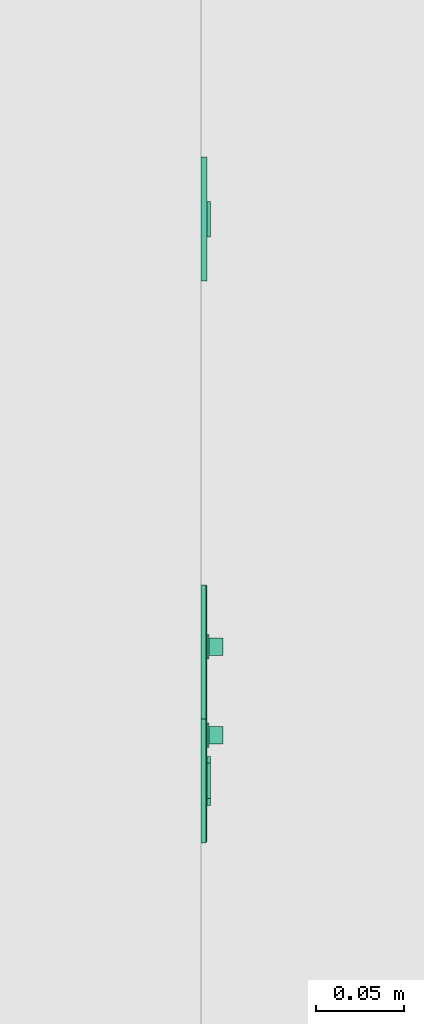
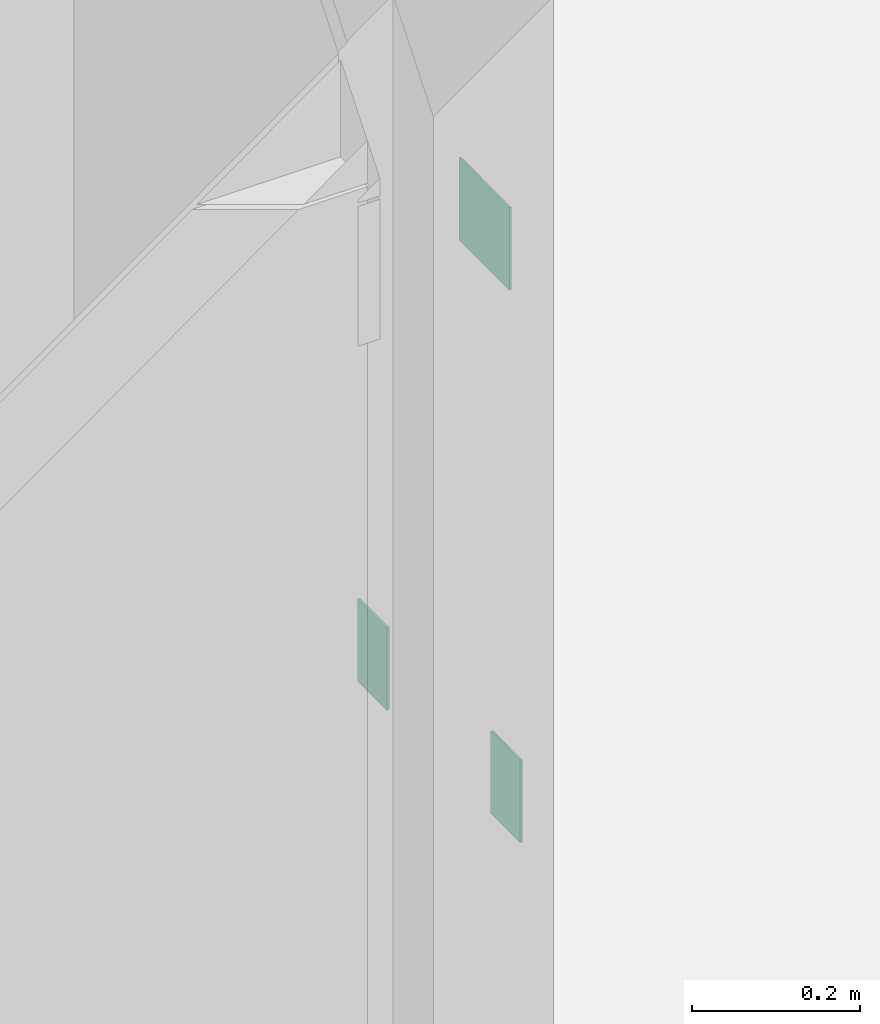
# One storey, part 27 of 103: 3 flow controllers.
"""IFC2X3 building model written with IfcOpenShell, lengths in inches."""

from ifc_helpers import new_model, entity, si_unit, converted_unit, derived_unit, money_unit, direction, frame, origin_with_axes, place, context, subcontext, project, spatial, faceted_brep, source, transform, mapped, type_object, element, save


model = new_model("IFC2X3")

# Units and contexts
model_context = context("Model", 3, precision=0.00039370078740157, world=origin_with_axes(), true_north=direction((0.0, 1.0)))
plan_context = context("Plan", 3, precision=0.00039370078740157, world=origin_with_axes(), true_north=direction((0.0, 1.0)))
body_context = subcontext(model_context, "Body", "Model", "MODEL_VIEW")
ifc_project = project(units=[converted_unit("LENGTHUNIT", "INCH", entity("IfcPositiveLengthMeasure", 0.0254), si_unit("LENGTHUNIT", "METRE"), dimensions=[1, 0, 0, 0, 0, 0, 0]), converted_unit("AREAUNIT", "SQUARE_FOOT", entity("IfcPositiveLengthMeasure", 0.09290304), si_unit("AREAUNIT", "SQUARE_METRE"), dimensions=[2, 0, 0, 0, 0, 0, 0]), si_unit("PLANEANGLEUNIT", "RADIAN"), si_unit("SOLIDANGLEUNIT", "STERADIAN"), money_unit("USD"), converted_unit("TIMEUNIT", "Year", entity("IfcTimeMeasure", 31557600.0), si_unit("TIMEUNIT", "SECOND"), dimensions=[0, 0, 1, 0, 0, 0, 0]), si_unit("MASSUNIT", "GRAM", prefix="KILO"), si_unit("THERMODYNAMICTEMPERATUREUNIT", "DEGREE_CELSIUS"), si_unit("LUMINOUSINTENSITYUNIT", "LUMEN"), si_unit("ENERGYUNIT", "JOULE", prefix="MEGA"), derived_unit("SPECIFICHEATCAPACITYUNIT", [(si_unit("ENERGYUNIT", "JOULE"), 1), (si_unit("MASSUNIT", "GRAM", prefix="KILO"), -1), (si_unit("THERMODYNAMICTEMPERATUREUNIT", "KELVIN"), -1)])], contexts=[model_context, plan_context])

# Site, building, storey
site_placement = place(None, origin_with_axes())
site = spatial("IfcSite", under=ifc_project, at=site_placement, Name="Site", CompositionType="ELEMENT")
building_placement = place(site_placement, origin_with_axes())
building = spatial("IfcBuilding", under=site, at=building_placement, Name="Building", CompositionType="ELEMENT")
storey_placement = place(building_placement, frame((0.0, 0.0, 127.9999999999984), z_axis=(0.0, 0.0, 1.0), x_axis=(1.0, 0.0, 0.0)))
storey = spatial("IfcBuildingStorey", under=building, at=storey_placement, Name="Second Floor", CompositionType="ELEMENT", Elevation=128.0)

# Flow controllers
switching_device_type_1 = type_object("IfcSwitchingDeviceType", Name="Outlet 1 US", PredefinedType="NOTDEFINED")
shared_shape_1 = source(origin_with_axes(), body_context, "Body", "Brep", [
    faceted_brep([(0.39370078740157, -0.03444881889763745, -1.18110236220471), (0.5436477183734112, -0.03444881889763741, -0.7086614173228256), (0.5436477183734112, -0.2165354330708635, -0.7086614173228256), (0.39370078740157, -0.2165354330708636, -1.18110236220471), (-0.3937007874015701, -0.03444881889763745, -1.181102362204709), (-0.543647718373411, -0.03444881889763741, -0.7086614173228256), (-0.39370078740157, -0.03444881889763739, -0.2362204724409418), (0.3937007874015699, -0.03444881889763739, -0.2362204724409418), (-0.196850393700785, -0.03444881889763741, -0.7086614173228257), (-0.196850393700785, -0.0344488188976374, -0.4724409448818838), (-0.275590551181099, -0.0344488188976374, -0.4724409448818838), (-0.275590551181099, -0.03444881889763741, -0.7086614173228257), (0.196850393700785, -0.03444881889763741, -0.7086614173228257), (0.275590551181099, -0.03444881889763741, -0.7086614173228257), (0.275590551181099, -0.0344488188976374, -0.4724409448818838), (0.196850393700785, -0.0344488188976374, -0.4724409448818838), (-0.078740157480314, -0.03444881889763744, -1.102362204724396), (0.078740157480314, -0.03444881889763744, -1.102362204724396), (0.078740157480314, -0.03444881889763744, -1.023622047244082), (0.06819097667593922, -0.03444881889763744, -0.9842519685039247), (0.03937007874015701, -0.03444881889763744, -0.9554310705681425), (0.0, -0.03444881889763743, -0.9448818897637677), (-0.03937007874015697, -0.03444881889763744, -0.9554310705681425), (-0.06819097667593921, -0.03444881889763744, -0.9842519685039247), (-0.078740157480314, -0.03444881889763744, -1.023622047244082), (0.3937007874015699, -0.2165354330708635, -0.2362204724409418), (-0.39370078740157, -0.2165354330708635, -0.2362204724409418), (-0.543647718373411, -0.2165354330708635, -0.7086614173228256), (-0.3937007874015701, -0.2165354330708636, -1.181102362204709), (-0.196850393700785, -0.2165354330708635, -0.7086614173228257), (-0.275590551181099, -0.2165354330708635, -0.7086614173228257), (-0.275590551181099, -0.2165354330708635, -0.4724409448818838), (-0.196850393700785, -0.2165354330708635, -0.4724409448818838), (0.196850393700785, -0.2165354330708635, -0.7086614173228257), (0.196850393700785, -0.2165354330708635, -0.4724409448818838), (0.275590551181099, -0.2165354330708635, -0.4724409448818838), (0.275590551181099, -0.2165354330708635, -0.7086614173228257), (-0.078740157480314, -0.2165354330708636, -1.102362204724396), (-0.078740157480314, -0.2165354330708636, -1.023622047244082), (-0.06819097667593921, -0.2165354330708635, -0.9842519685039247), (-0.03937007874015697, -0.2165354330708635, -0.9554310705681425), (0.0, -0.2165354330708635, -0.9448818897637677), (0.03937007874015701, -0.2165354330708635, -0.9554310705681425), (0.06819097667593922, -0.2165354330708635, -0.9842519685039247), (0.078740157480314, -0.2165354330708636, -1.023622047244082), (0.078740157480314, -0.2165354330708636, -1.102362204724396)], [[[0, 1, 2, 3]], [[0, 4, 5, 6, 7, 1], [8, 9, 10, 11], [12, 13, 14, 15], [16, 17, 18, 19, 20, 21, 22, 23, 24]], [[1, 7, 25, 2]], [[3, 2, 25, 26, 27, 28], [29, 30, 31, 32], [33, 34, 35, 36], [37, 38, 39, 40, 41, 42, 43, 44, 45]], [[4, 0, 3, 28]], [[5, 4, 28, 27]], [[6, 5, 27, 26]], [[7, 6, 26, 25]], [[9, 8, 29, 32]], [[10, 9, 32, 31]], [[11, 10, 31, 30]], [[8, 11, 30, 29]], [[13, 12, 33, 36]], [[14, 13, 36, 35]], [[15, 14, 35, 34]], [[12, 15, 34, 33]], [[17, 16, 37, 45]], [[18, 17, 45, 44]], [[19, 18, 44, 43]], [[20, 19, 43, 42]], [[21, 20, 42, 41]], [[22, 21, 41, 40]], [[23, 22, 40, 39]], [[24, 23, 39, 38]], [[16, 24, 38, 37]]]),
    faceted_brep([(0.39370078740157, -0.03444881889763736, 0.2362204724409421), (0.5436477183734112, -0.03444881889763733, 0.7086614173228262), (0.5436477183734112, -0.2165354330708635, 0.7086614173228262), (0.39370078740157, -0.2165354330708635, 0.2362204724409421), (-0.3937007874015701, -0.03444881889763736, 0.2362204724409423), (-0.543647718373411, -0.03444881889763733, 0.7086614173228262), (-0.39370078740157, -0.0344488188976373, 1.18110236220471), (0.3937007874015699, -0.0344488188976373, 1.18110236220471), (-0.196850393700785, -0.03444881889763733, 0.7086614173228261), (-0.196850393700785, -0.03444881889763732, 0.944881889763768), (-0.275590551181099, -0.03444881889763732, 0.944881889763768), (-0.275590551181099, -0.03444881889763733, 0.7086614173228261), (0.196850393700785, -0.03444881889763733, 0.7086614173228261), (0.275590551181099, -0.03444881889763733, 0.7086614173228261), (0.275590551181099, -0.03444881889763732, 0.944881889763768), (0.196850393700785, -0.03444881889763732, 0.944881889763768), (-0.078740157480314, -0.03444881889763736, 0.3149606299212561), (0.078740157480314, -0.03444881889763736, 0.3149606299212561), (0.078740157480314, -0.03444881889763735, 0.3937007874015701), (0.06819097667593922, -0.03444881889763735, 0.4330708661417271), (0.03937007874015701, -0.03444881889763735, 0.4618917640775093), (0.0, -0.03444881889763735, 0.472440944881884), (-0.03937007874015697, -0.03444881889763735, 0.4618917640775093), (-0.06819097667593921, -0.03444881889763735, 0.4330708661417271), (-0.078740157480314, -0.03444881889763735, 0.3937007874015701), (0.3937007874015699, -0.2165354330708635, 1.18110236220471), (-0.39370078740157, -0.2165354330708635, 1.18110236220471), (-0.543647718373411, -0.2165354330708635, 0.7086614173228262), (-0.3937007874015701, -0.2165354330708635, 0.2362204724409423), (-0.196850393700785, -0.2165354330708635, 0.7086614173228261), (-0.275590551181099, -0.2165354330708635, 0.7086614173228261), (-0.275590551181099, -0.2165354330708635, 0.944881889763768), (-0.196850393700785, -0.2165354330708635, 0.944881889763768), (0.196850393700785, -0.2165354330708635, 0.7086614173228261), (0.196850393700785, -0.2165354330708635, 0.944881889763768), (0.275590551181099, -0.2165354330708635, 0.944881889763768), (0.275590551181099, -0.2165354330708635, 0.7086614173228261), (-0.078740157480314, -0.2165354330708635, 0.3149606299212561), (-0.078740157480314, -0.2165354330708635, 0.3937007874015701), (-0.06819097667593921, -0.2165354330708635, 0.4330708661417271), (-0.03937007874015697, -0.2165354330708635, 0.4618917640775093), (0.0, -0.2165354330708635, 0.472440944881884), (0.03937007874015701, -0.2165354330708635, 0.4618917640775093), (0.06819097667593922, -0.2165354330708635, 0.4330708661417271), (0.078740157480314, -0.2165354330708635, 0.3937007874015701), (0.078740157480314, -0.2165354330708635, 0.3149606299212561)], [[[0, 1, 2, 3]], [[0, 4, 5, 6, 7, 1], [8, 9, 10, 11], [12, 13, 14, 15], [16, 17, 18, 19, 20, 21, 22, 23, 24]], [[1, 7, 25, 2]], [[3, 2, 25, 26, 27, 28], [29, 30, 31, 32], [33, 34, 35, 36], [37, 38, 39, 40, 41, 42, 43, 44, 45]], [[4, 0, 3, 28]], [[5, 4, 28, 27]], [[6, 5, 27, 26]], [[7, 6, 26, 25]], [[9, 8, 29, 32]], [[10, 9, 32, 31]], [[11, 10, 31, 30]], [[8, 11, 30, 29]], [[13, 12, 33, 36]], [[14, 13, 36, 35]], [[15, 14, 35, 34]], [[12, 15, 34, 33]], [[17, 16, 37, 45]], [[18, 17, 45, 44]], [[19, 18, 44, 43]], [[20, 19, 43, 42]], [[21, 20, 42, 41]], [[22, 21, 41, 40]], [[23, 22, 40, 39]], [[24, 23, 39, 38]], [[16, 24, 38, 37]]]),
    faceted_brep([(-1.343503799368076, -0.1377952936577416, -2.327755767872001), (1.343503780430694, -0.1377952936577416, -2.327755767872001), (1.343503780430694, -0.1377952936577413, 2.327755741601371), (-1.343503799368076, -0.1377952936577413, 2.327755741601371), (0.39370078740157, -0.1377952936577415, -1.18110236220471), (-0.3937007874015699, -0.1377952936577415, -1.181102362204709), (-0.5436477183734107, -0.1377952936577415, -0.7086614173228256), (-0.39370078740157, -0.1377952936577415, -0.2362204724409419), (0.3937007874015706, -0.1377952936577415, -0.2362204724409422), (0.5436477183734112, -0.1377952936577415, -0.7086614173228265), (-0.39370078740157, -0.1377952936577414, 1.18110236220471), (0.3937007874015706, -0.1377952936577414, 1.18110236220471), (0.5436477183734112, -0.1377952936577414, 0.7086614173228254), (0.39370078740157, -0.1377952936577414, 0.236220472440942), (-0.3937007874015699, -0.1377952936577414, 0.2362204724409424), (-0.5436477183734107, -0.1377952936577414, 0.7086614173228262), (-1.352419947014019, -0.1366214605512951, -2.336671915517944), (1.352419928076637, -0.1366214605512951, -2.336671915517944), (1.352419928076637, -0.1366214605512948, 2.336671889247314), (-1.352419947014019, -0.1366214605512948, 2.336671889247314), (0.39370078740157, -0.03444881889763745, -1.18110236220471), (-0.3937007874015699, -0.03444881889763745, -1.181102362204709), (-0.5436477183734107, -0.03444881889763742, -0.7086614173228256), (-0.39370078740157, -0.03444881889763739, -0.2362204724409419), (0.3937007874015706, -0.03444881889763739, -0.2362204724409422), (0.5436477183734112, -0.03444881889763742, -0.7086614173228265), (-0.39370078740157, -0.0344488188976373, 1.18110236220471), (0.3937007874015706, -0.0344488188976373, 1.18110236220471), (0.5436477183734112, -0.03444881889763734, 0.7086614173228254), (0.39370078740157, -0.03444881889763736, 0.236220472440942), (-0.3937007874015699, -0.03444881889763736, 0.2362204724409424), (-0.5436477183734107, -0.03444881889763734, 0.7086614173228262), (-1.36786294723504, -0.1277054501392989, -2.352114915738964), (1.367862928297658, -0.1277054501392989, -2.352114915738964), (1.367862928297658, -0.1277054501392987, 2.352114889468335), (-1.36786294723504, -0.1277054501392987, 2.352114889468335), (-1.376778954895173, -0.1122624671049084, -2.361030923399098), (1.376778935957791, -0.1122624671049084, -2.361030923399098), (1.376778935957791, -0.1122624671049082, 2.361030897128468), (-1.376778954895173, -0.1122624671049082, 2.361030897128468), (-1.377952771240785, -0.1033464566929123, -2.362204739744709), (1.377952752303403, -0.1033464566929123, -2.362204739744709), (1.377952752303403, -0.103346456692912, 2.36220471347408), (-1.377952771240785, -0.103346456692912, 2.36220471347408), (-1.377952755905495, 0.0, -2.36220472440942), (1.377952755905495, 0.0, -2.36220472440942), (1.377952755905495, 0.0, 2.36220472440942), (-1.377952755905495, 0.0, 2.36220472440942)], [[[0, 1, 2, 3], [4, 5, 6, 7, 8, 9], [10, 11, 12, 13, 14, 15]], [[1, 0, 16, 17]], [[2, 1, 17, 18]], [[3, 2, 18, 19]], [[0, 3, 19, 16]], [[4, 20, 21, 5]], [[5, 21, 22, 6]], [[6, 22, 23, 7]], [[7, 23, 24, 8]], [[8, 24, 25, 9]], [[9, 25, 20, 4]], [[11, 10, 26, 27]], [[12, 11, 27, 28]], [[13, 12, 28, 29]], [[14, 13, 29, 30]], [[15, 14, 30, 31]], [[10, 15, 31, 26]], [[17, 16, 32, 33]], [[18, 17, 33, 34]], [[19, 18, 34, 35]], [[16, 19, 35, 32]], [[22, 21, 20, 25, 24, 23]], [[28, 27, 26, 31, 30, 29]], [[33, 32, 36, 37]], [[34, 33, 37, 38]], [[35, 34, 38, 39]], [[32, 35, 39, 36]], [[37, 36, 40, 41]], [[38, 37, 41, 42]], [[39, 38, 42, 43]], [[36, 39, 43, 40]], [[41, 40, 44, 45]], [[42, 41, 45, 46]], [[43, 42, 46, 47]], [[40, 43, 47, 44]], [[46, 45, 44, 47]]]),
])
flow_controller_1_placement = place(storey_placement, frame((161.4999999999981, 373.0009092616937, 12.99999999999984), z_axis=(0.0, 0.0, 1.0), x_axis=(0.0, 1.0, 0.0)))
element("IfcFlowController", 1, at=flow_controller_1_placement, inside=storey, type_object=switching_device_type_1, Name="FU - 029", context=body_context, shape_type="MappedRepresentation", body=[
    mapped(shared_shape_1, transform((0.0, 0.0, 0.0))),
])
shared_shape_2 = source(origin_with_axes(), body_context, "Body", "Brep", [
    faceted_brep([(0.39370078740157, -0.0344488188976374, -0.472440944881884), (0.3937007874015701, -0.03444881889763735, 0.472440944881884), (0.3937007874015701, -0.2165354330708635, 0.472440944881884), (0.39370078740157, -0.2165354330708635, -0.472440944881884), (-0.3937007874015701, -0.0344488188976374, -0.4724409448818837), (-0.39370078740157, -0.03444881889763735, 0.472440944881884), (-0.39370078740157, -0.2165354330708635, 0.472440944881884), (-0.3937007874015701, -0.2165354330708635, -0.4724409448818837)], [[[0, 1, 2, 3]], [[0, 4, 5, 1]], [[1, 5, 6, 2]], [[3, 2, 6, 7]], [[4, 0, 3, 7]], [[5, 4, 7, 6]]]),
    faceted_brep([(1.377952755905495, -0.1377952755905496, -2.36220472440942), (1.377952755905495, -0.1377952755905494, 2.36220472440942), (-1.377952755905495, -0.1377952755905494, 2.36220472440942), (-1.377952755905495, -0.1377952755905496, -2.36220472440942), (-0.3937007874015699, -0.1377952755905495, -0.4724409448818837), (-0.39370078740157, -0.1377952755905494, 0.4724409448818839), (0.3937007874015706, -0.1377952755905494, 0.4724409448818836), (0.39370078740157, -0.1377952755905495, -0.472440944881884), (1.377952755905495, 0.0, 2.36220472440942), (1.377952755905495, 0.0, -2.36220472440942), (-1.377952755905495, 0.0, 2.36220472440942), (-1.377952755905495, 0.0, -2.36220472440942), (-0.3937007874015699, -0.0344488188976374, -0.4724409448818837), (-0.39370078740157, -0.03444881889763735, 0.4724409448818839), (0.3937007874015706, -0.03444881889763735, 0.4724409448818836), (0.39370078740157, -0.0344488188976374, -0.472440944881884)], [[[0, 1, 2, 3], [4, 5, 6, 7]], [[8, 1, 0, 9]], [[10, 2, 1, 8]], [[11, 3, 2, 10]], [[9, 0, 3, 11]], [[5, 4, 12, 13]], [[6, 5, 13, 14]], [[7, 6, 14, 15]], [[4, 7, 15, 12]], [[10, 8, 9, 11]], [[14, 13, 12, 15]]]),
])
flow_controller_2_placement = place(storey_placement, frame((161.4999999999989, 385.5009092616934, 12.99999999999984), z_axis=(0.0, 0.0, 1.0), x_axis=(0.0, 1.0, 0.0)))
element("IfcFlowController", 2, at=flow_controller_2_placement, inside=storey, type_object=switching_device_type_1, Name="OBJ-05", context=body_context, shape_type="MappedRepresentation", body=[
    mapped(shared_shape_2, transform((0.0, 0.0, 0.0))),
])
switching_device_type_2 = type_object("IfcSwitchingDeviceType", Name="Switch US", PredefinedType="NOTDEFINED")
shared_shape_3 = source(origin_with_axes(), body_context, "Body", "Brep", [
    faceted_brep([(1.18110236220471, 0.0, -0.5905511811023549), (0.7874015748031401, 0.0, -0.5905511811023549), (0.7874015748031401, 0.0, 0.5905511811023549), (1.18110236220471, 0.0, 0.5905511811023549), (1.18110236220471, -0.1033464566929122, -0.5905511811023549), (0.7874015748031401, -0.1033464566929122, -0.5905511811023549), (0.7874015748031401, -0.1033464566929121, 0.157480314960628), (0.7874015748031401, -0.4970472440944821, 0.1574803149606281), (0.7874015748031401, -0.4970472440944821, 0.472440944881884), (0.7874015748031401, -0.1033464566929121, 0.472440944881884), (0.7874015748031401, -0.1033464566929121, 0.5905511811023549), (1.18110236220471, -0.103346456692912, 0.5905511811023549), (1.18110236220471, -0.1033464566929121, 0.472440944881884), (1.18110236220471, -0.4970472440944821, 0.472440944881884), (1.18110236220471, -0.4970472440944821, 0.1574803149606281), (1.18110236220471, -0.1033464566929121, 0.157480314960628)], [[[0, 1, 2, 3]], [[4, 5, 1, 0]], [[1, 5, 6, 7, 8, 9, 10, 2]], [[3, 2, 10, 11]], [[0, 3, 11, 12, 13, 14, 15, 4]], [[15, 6, 5, 4]], [[14, 7, 6, 15]], [[13, 8, 7, 14]], [[12, 9, 8, 13]], [[11, 10, 9, 12]]]),
    faceted_brep([(1.259842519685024, 0.0, -0.669291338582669), (1.259842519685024, -0.1771653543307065, -0.669291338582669), (0.7086614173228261, -0.1771653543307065, -0.669291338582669), (0.7086614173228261, 0.0, -0.669291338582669), (1.259842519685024, 0.0, 0.669291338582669), (1.259842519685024, -0.1771653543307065, 0.669291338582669), (0.7086614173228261, -0.1771653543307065, 0.669291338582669), (1.18110236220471, -0.1771653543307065, -0.5905511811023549), (0.78740157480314, -0.1771653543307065, -0.5905511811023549), (0.78740157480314, -0.1771653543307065, 0.5905511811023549), (1.18110236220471, -0.1771653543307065, 0.5905511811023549), (0.7086614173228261, 0.0, 0.669291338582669), (1.18110236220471, 0.0, -0.5905511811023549), (1.18110236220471, 0.0, 0.5905511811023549), (0.78740157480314, 0.0, 0.5905511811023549), (0.78740157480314, 0.0, -0.5905511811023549)], [[[0, 1, 2, 3]], [[4, 5, 1, 0]], [[1, 5, 6, 2], [7, 8, 9, 10]], [[3, 2, 6, 11]], [[0, 3, 11, 4], [12, 13, 14, 15]], [[11, 6, 5, 4]], [[15, 8, 7, 12]], [[14, 9, 8, 15]], [[13, 10, 9, 14]], [[12, 7, 10, 13]]]),
    faceted_brep([(0.0, -0.103346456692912, 2.362204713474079), (2.362204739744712, -0.103346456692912, 2.362204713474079), (2.36220472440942, 0.0, 2.36220472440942), (0.0, 0.0, 2.36220472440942), (0.0, -0.1122624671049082, 2.361030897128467), (2.361030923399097, -0.1122624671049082, 2.361030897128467), (2.362204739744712, -0.1033464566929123, -2.36220473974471), (2.36220472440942, 0.0, -2.36220472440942), (0.0, 0.0, -2.36220472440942), (0.7086614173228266, 0.0, -0.669291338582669), (1.259842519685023, 0.0, -0.669291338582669), (1.259842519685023, 0.0, 0.669291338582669), (0.7086614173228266, 0.0, 0.669291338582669), (0.0, -0.1033464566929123, -2.36220473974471), (0.0, -0.1122624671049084, -2.361030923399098), (0.0, -0.1277054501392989, -2.352114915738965), (0.0, -0.1366214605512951, -2.336671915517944), (0.0, -0.1377952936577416, -2.327755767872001), (0.0, -0.1377952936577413, 2.32775574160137), (0.0, -0.1366214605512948, 2.336671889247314), (0.0, -0.1277054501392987, 2.352114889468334), (2.352114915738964, -0.1277054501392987, 2.352114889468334), (2.361030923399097, -0.1122624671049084, -2.361030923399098), (0.7086614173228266, -0.1377952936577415, -0.669291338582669), (1.259842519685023, -0.1377952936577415, -0.669291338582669), (1.259842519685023, -0.1377952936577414, 0.669291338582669), (0.7086614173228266, -0.1377952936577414, 0.669291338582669), (2.352114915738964, -0.1277054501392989, -2.352114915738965), (2.336671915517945, -0.1366214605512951, -2.336671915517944), (2.327755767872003, -0.1377952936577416, -2.327755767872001), (2.327755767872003, -0.1377952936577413, 2.32775574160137), (2.336671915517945, -0.1366214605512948, 2.336671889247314)], [[[0, 1, 2, 3]], [[4, 5, 1, 0]], [[6, 7, 2, 1]], [[3, 2, 7, 8], [9, 10, 11, 12]], [[8, 13, 14, 15, 16, 17, 18, 19, 20, 4, 0, 3]], [[20, 21, 5, 4]], [[22, 6, 1, 5]], [[8, 7, 6, 13]], [[10, 9, 23, 24]], [[11, 10, 24, 25]], [[12, 11, 25, 26]], [[9, 12, 26, 23]], [[13, 6, 22, 14]], [[14, 22, 27, 15]], [[15, 27, 28, 16]], [[16, 28, 29, 17]], [[17, 29, 30, 18], [25, 24, 23, 26]], [[18, 30, 31, 19]], [[19, 31, 21, 20]], [[27, 22, 5, 21]], [[28, 27, 21, 31]], [[29, 28, 31, 30]]]),
    faceted_brep([(-0.78740157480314, 0.0, -0.5905511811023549), (-1.18110236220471, 0.0, -0.5905511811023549), (-1.18110236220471, 0.0, 0.5905511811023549), (-0.78740157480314, 0.0, 0.5905511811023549), (-0.78740157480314, -0.1033464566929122, -0.5905511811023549), (-1.18110236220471, -0.1033464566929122, -0.5905511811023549), (-1.18110236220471, -0.1033464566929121, 0.157480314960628), (-1.18110236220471, -0.4970472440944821, 0.1574803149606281), (-1.18110236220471, -0.4970472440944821, 0.472440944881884), (-1.18110236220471, -0.1033464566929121, 0.472440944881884), (-1.18110236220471, -0.1033464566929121, 0.5905511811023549), (-0.78740157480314, -0.103346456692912, 0.5905511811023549), (-0.78740157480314, -0.1033464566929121, 0.472440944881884), (-0.78740157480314, -0.4970472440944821, 0.472440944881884), (-0.78740157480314, -0.4970472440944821, 0.1574803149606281), (-0.78740157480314, -0.1033464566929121, 0.157480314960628)], [[[0, 1, 2, 3]], [[4, 5, 1, 0]], [[1, 5, 6, 7, 8, 9, 10, 2]], [[3, 2, 10, 11]], [[0, 3, 11, 12, 13, 14, 15, 4]], [[15, 6, 5, 4]], [[14, 7, 6, 15]], [[13, 8, 7, 14]], [[12, 9, 8, 13]], [[11, 10, 9, 12]]]),
    faceted_brep([(-0.7086614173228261, 0.0, -0.669291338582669), (-0.7086614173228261, -0.1771653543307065, -0.669291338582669), (-1.259842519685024, -0.1771653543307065, -0.669291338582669), (-1.259842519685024, 0.0, -0.669291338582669), (-0.7086614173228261, 0.0, 0.669291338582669), (-0.7086614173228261, -0.1771653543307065, 0.669291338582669), (-1.259842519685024, -0.1771653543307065, 0.669291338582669), (-0.78740157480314, -0.1771653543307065, -0.5905511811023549), (-1.18110236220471, -0.1771653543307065, -0.5905511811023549), (-1.18110236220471, -0.1771653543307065, 0.5905511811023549), (-0.78740157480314, -0.1771653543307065, 0.5905511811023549), (-1.259842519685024, 0.0, 0.669291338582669), (-0.78740157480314, 0.0, -0.5905511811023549), (-0.78740157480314, 0.0, 0.5905511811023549), (-1.18110236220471, 0.0, 0.5905511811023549), (-1.18110236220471, 0.0, -0.5905511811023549)], [[[0, 1, 2, 3]], [[4, 5, 1, 0]], [[1, 5, 6, 2], [7, 8, 9, 10]], [[3, 2, 6, 11]], [[0, 3, 11, 4], [12, 13, 14, 15]], [[11, 6, 5, 4]], [[15, 8, 7, 12]], [[14, 9, 8, 15]], [[13, 10, 9, 14]], [[12, 7, 10, 13]]]),
    faceted_brep([(0.0, 0.0, -2.36220472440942), (-2.362204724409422, 0.0, -2.36220472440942), (-2.362204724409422, 0.0, 2.36220472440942), (0.0, 0.0, 2.36220472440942), (-1.259842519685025, 0.0, -0.669291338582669), (-0.7086614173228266, 0.0, -0.669291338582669), (-0.7086614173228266, 0.0, 0.669291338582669), (-1.259842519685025, 0.0, 0.669291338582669), (0.0, -0.1033464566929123, -2.36220473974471), (-2.362204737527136, -0.1033464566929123, -2.36220473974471), (-2.362204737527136, -0.103346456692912, 2.362204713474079), (0.0, -0.103346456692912, 2.362204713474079), (0.0, -0.1122624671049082, 2.361030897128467), (0.0, -0.1277054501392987, 2.352114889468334), (0.0, -0.1366214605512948, 2.336671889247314), (0.0, -0.1377952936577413, 2.32775574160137), (0.0, -0.1377952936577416, -2.327755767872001), (0.0, -0.1366214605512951, -2.336671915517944), (0.0, -0.1277054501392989, -2.352114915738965), (0.0, -0.1122624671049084, -2.361030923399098), (-1.259842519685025, -0.1377952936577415, -0.669291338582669), (-0.7086614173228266, -0.1377952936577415, -0.669291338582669), (-0.7086614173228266, -0.1377952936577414, 0.669291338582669), (-1.259842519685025, -0.1377952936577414, 0.669291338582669), (-2.361030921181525, -0.1122624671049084, -2.361030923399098), (-2.361030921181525, -0.1122624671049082, 2.361030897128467), (-2.352114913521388, -0.1277054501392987, 2.352114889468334), (-2.336671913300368, -0.1366214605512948, 2.336671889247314), (-2.327755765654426, -0.1377952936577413, 2.32775574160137), (-2.327755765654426, -0.1377952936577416, -2.327755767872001), (-2.336671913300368, -0.1366214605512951, -2.336671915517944), (-2.352114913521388, -0.1277054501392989, -2.352114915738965)], [[[0, 1, 2, 3], [4, 5, 6, 7]], [[8, 9, 1, 0]], [[10, 2, 1, 9]], [[3, 2, 10, 11]], [[11, 12, 13, 14, 15, 16, 17, 18, 19, 8, 0, 3]], [[5, 4, 20, 21]], [[6, 5, 21, 22]], [[7, 6, 22, 23]], [[4, 7, 23, 20]], [[19, 24, 9, 8]], [[25, 10, 9, 24]], [[11, 10, 25, 12]], [[12, 25, 26, 13]], [[13, 26, 27, 14]], [[14, 27, 28, 15]], [[15, 28, 29, 16], [22, 21, 20, 23]], [[16, 29, 30, 17]], [[17, 30, 31, 18]], [[18, 31, 24, 19]], [[26, 25, 24, 31]], [[27, 26, 31, 30]], [[28, 27, 30, 29]]]),
])
flow_controller_3_placement = place(storey_placement, frame((161.4999999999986, 375.0009092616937, 43.99999999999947), z_axis=(0.0, 0.0, 1.0), x_axis=(0.0, 1.0, 0.0)))
element("IfcFlowController", 3, at=flow_controller_3_placement, inside=storey, type_object=switching_device_type_2, Name="OBJ-09", context=body_context, shape_type="MappedRepresentation", body=[
    mapped(shared_shape_3, transform((0.0, 0.0, 0.0))),
])

save(model, "model.ifc")
